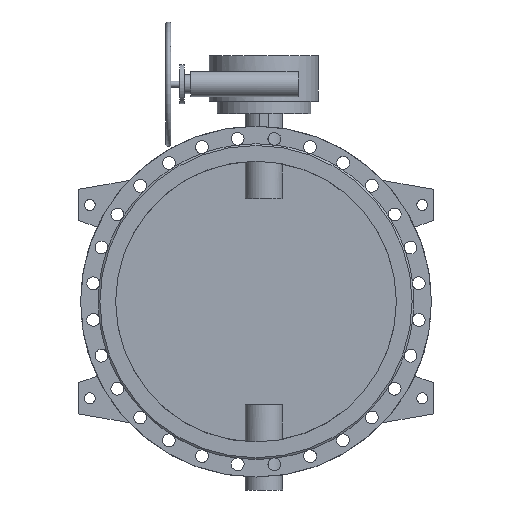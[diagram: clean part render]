
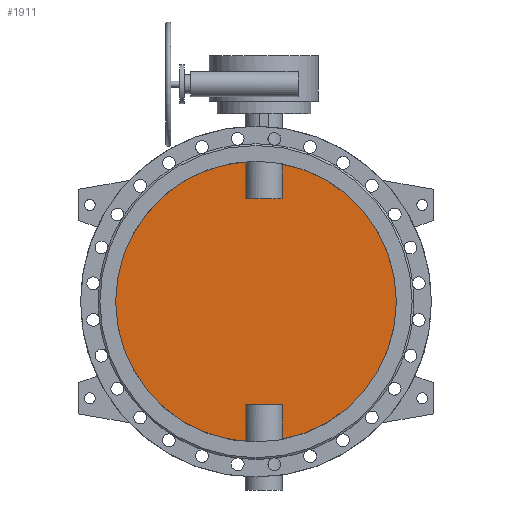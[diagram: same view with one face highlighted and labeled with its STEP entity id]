
A CAD part, front view. The second image highlights one B-rep face of the part: STEP entity #1911.
In plain terms, the highlighted planar face has unit normal (0, -1, 0).
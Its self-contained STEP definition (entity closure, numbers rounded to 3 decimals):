
#1911=ADVANCED_FACE('',(#3909),#3911,.F.);
#3909=FACE_BOUND('',#3910,.T.);
#3910=EDGE_LOOP('',(#5278,#5279,#5280,#5281,#5282,#5283,#5284,#5285));
#3911=PLANE('',#3912);
#3912=AXIS2_PLACEMENT_3D('',#3913,#3914,#3915);
#3913=CARTESIAN_POINT('',(0.,-5.,0.));
#3914=DIRECTION('',(0.,1.,0.));
#3915=DIRECTION('',(1.,0.,0.));
#5278=ORIENTED_EDGE('',*,*,#5968,.T.);
#5279=ORIENTED_EDGE('',*,*,#5978,.T.);
#5280=ORIENTED_EDGE('',*,*,#5979,.T.);
#5281=ORIENTED_EDGE('',*,*,#5980,.T.);
#5282=ORIENTED_EDGE('',*,*,#5970,.T.);
#5283=ORIENTED_EDGE('',*,*,#5981,.T.);
#5284=ORIENTED_EDGE('',*,*,#5982,.T.);
#5285=ORIENTED_EDGE('',*,*,#5983,.T.);
#5968=EDGE_CURVE('',#7080,#7081,#7082,.F.);
#5970=EDGE_CURVE('',#7085,#7083,#7086,.F.);
#5978=EDGE_CURVE('',#7081,#7100,#7101,.T.);
#5979=EDGE_CURVE('',#7100,#7102,#7103,.F.);
#5980=EDGE_CURVE('',#7102,#7085,#7104,.F.);
#5981=EDGE_CURVE('',#7083,#7105,#7106,.F.);
#5982=EDGE_CURVE('',#7105,#7107,#7108,.F.);
#5983=EDGE_CURVE('',#7107,#7080,#7109,.T.);
#7080=VERTEX_POINT('',#13535);
#7081=VERTEX_POINT('',#13536);
#7082=CIRCLE('',#13537,450.);
#7083=VERTEX_POINT('',#13541);
#7085=VERTEX_POINT('',#13631);
#7086=CIRCLE('',#13632,450.);
#7100=VERTEX_POINT('',#13772);
#7101=LINE('',#13773,#13774);
#7102=VERTEX_POINT('',#13776);
#7103=LINE('',#13777,#13778);
#7104=LINE('',#13780,#13781);
#7105=VERTEX_POINT('',#13783);
#7106=LINE('',#13784,#13785);
#7107=VERTEX_POINT('',#13787);
#7108=LINE('',#13788,#13789);
#7109=LINE('',#13791,#13792);
#13535=CARTESIAN_POINT('',(84.791,-5.,-441.939));
#13536=CARTESIAN_POINT('',(84.791,-5.,441.939));
#13537=AXIS2_PLACEMENT_3D('',#13538,#13539,#13540);
#13538=CARTESIAN_POINT('',(0.,-5.,0.));
#13539=DIRECTION('',(0.,1.,0.));
#13540=DIRECTION('',(0.188,0.,0.982));
#13541=CARTESIAN_POINT('',(-34.791,-5.,-448.653));
#13631=CARTESIAN_POINT('',(-34.791,-5.,448.653));
#13632=AXIS2_PLACEMENT_3D('',#13633,#13634,#13635);
#13633=CARTESIAN_POINT('',(0.,-5.,0.));
#13634=DIRECTION('',(0.,1.,0.));
#13635=DIRECTION('',(-0.077,0.,-0.997));
#13772=CARTESIAN_POINT('',(84.791,-5.,330.));
#13773=CARTESIAN_POINT('',(84.791,-5.,441.939));
#13774=VECTOR('',#13775,1.);
#13775=DIRECTION('',(0.,0.,-1.));
#13776=CARTESIAN_POINT('',(-34.791,-5.,330.));
#13777=CARTESIAN_POINT('',(-34.791,-5.,330.));
#13778=VECTOR('',#13779,1.);
#13779=DIRECTION('',(1.,0.,0.));
#13780=CARTESIAN_POINT('',(-34.791,-5.,448.653));
#13781=VECTOR('',#13782,1.);
#13782=DIRECTION('',(0.,0.,-1.));
#13783=CARTESIAN_POINT('',(-34.791,-5.,-330.));
#13784=CARTESIAN_POINT('',(-34.791,-5.,-330.));
#13785=VECTOR('',#13786,1.);
#13786=DIRECTION('',(0.,0.,-1.));
#13787=CARTESIAN_POINT('',(84.791,-5.,-330.));
#13788=CARTESIAN_POINT('',(84.791,-5.,-330.));
#13789=VECTOR('',#13790,1.);
#13790=DIRECTION('',(-1.,0.,0.));
#13791=CARTESIAN_POINT('',(84.791,-5.,-330.));
#13792=VECTOR('',#13793,1.);
#13793=DIRECTION('',(0.,0.,-1.));
